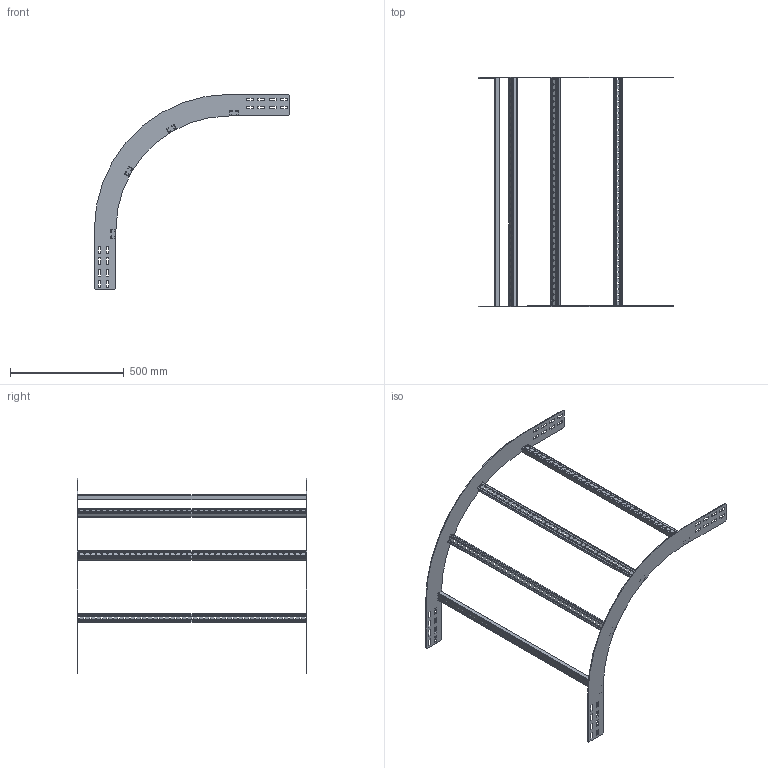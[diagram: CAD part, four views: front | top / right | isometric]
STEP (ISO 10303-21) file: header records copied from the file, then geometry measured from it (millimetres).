
FILE_DESCRIPTION(('Creo Elements/Direct Modeling STEP Export'),'2;1');
FILE_NAME('//pserver/office/EK/ME10-3D/3D-output/WPOR10-100-90-45.stp','2020-12-09T10:55:20',(''),(''),'PTC Creo Elements/Direct Modeling STEP processor for AP214 (Solid Model)','PTC Creo Elements/Direct Modeling 19.0C 15-Aug-2015 (C) Parametric Technology GmbH','');
FILE_SCHEMA(('AUTOMOTIVE_DESIGN { 1 0 10303 214 1 1 1 1 }'));
Length unit declared in the file: millimetre
Products named in the file (3): WPIBG100_450; WPSPF_100.1.1.1; WPOR10-100-90-45
Assembly tree (6 placements, depth 2):
  WPOR10-100-90-45
    WPSPF_100.1.1.1  x4
    WPIBG100_450  x2
Bounding box: 860 x 1011 x 860 mm (x, y, z)
Volume: 1355498.6 mm3; surface area: 1350218.9 mm2
Topology: 6 solids, 6 shells, 972 faces, 2880 edges, 1920 vertices
Faces by surface type: plane 568, cylinder 404
Entity records: 9718 total; most frequent: CARTESIAN_POINT 1671, ORIENTED_EDGE 1668, DIRECTION 1605, EDGE_CURVE 834, VECTOR 625, LINE 625, VERTEX_POINT 556, AXIS2_PLACEMENT_3D 490
